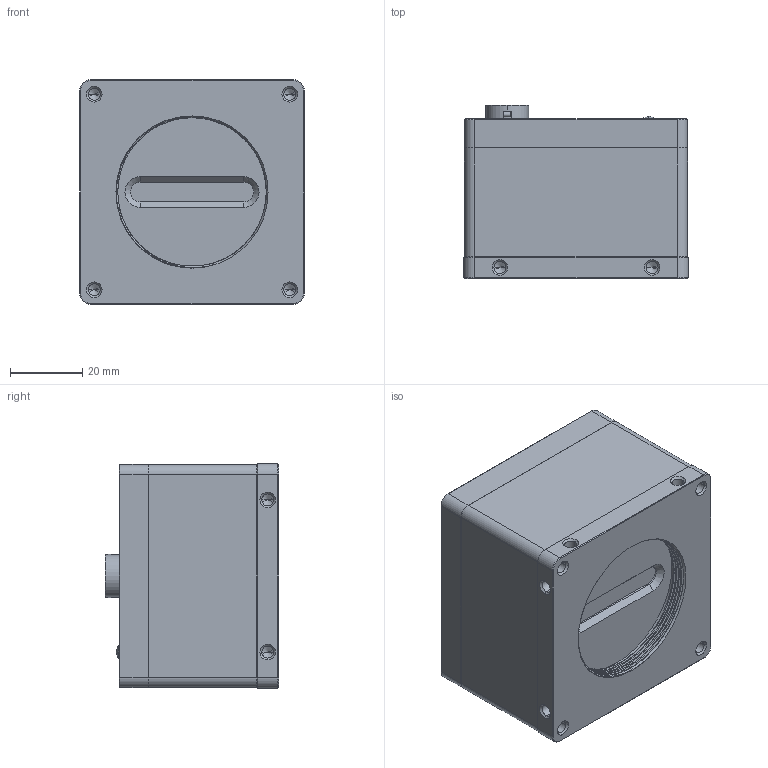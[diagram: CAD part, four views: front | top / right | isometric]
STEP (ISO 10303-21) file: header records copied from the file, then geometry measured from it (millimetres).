
FILE_DESCRIPTION((''),'2;1');
FILE_NAME('0-DH3-3077-0003_SW0001','2023-12-21T14:47:15',('303992'),(''),'CREO PARAMETRIC BY PTC INC, 2020184','CREO PARAMETRIC BY PTC INC, 2020184','');
FILE_SCHEMA(('CONFIG_CONTROL_DESIGN','SHAPE_APPEARANCE_LAYERS_GROUPS'));
Length unit declared in the file: millimetre
Products named in the file (1): 0-DH3-3077-0003_SW0001
Bounding box: 62 x 47.8 x 62 mm (x, y, z)
Volume: 155028.3 mm3; surface area: 24744.7 mm2
Topology: 1 solids, 1 shells, 857 faces, 2290 edges, 1448 vertices
Faces by surface type: plane 463, cylinder 259, cone 121, bspline 10, torus 2, sphere 2
Entity records: 44669 total; most frequent: CARTESIAN_POINT 9706, DIRECTION 4514, ORIENTED_EDGE 4512, PRESENTATION_STYLE_ASSIGNMENT 3114, STYLED_ITEM 2257, CURVE_STYLE 2256, EDGE_CURVE 2256, AXIS2_PLACEMENT_3D 1514
